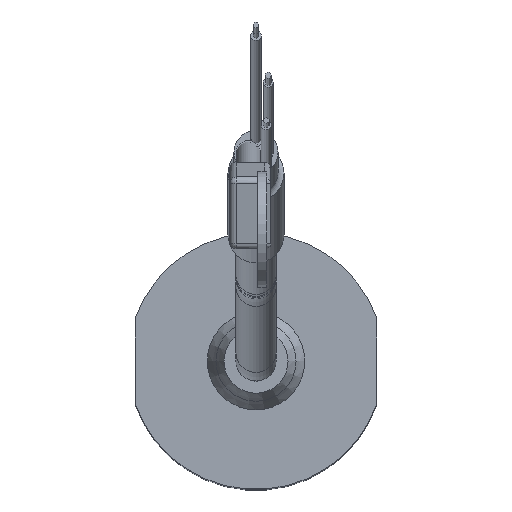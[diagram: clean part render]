
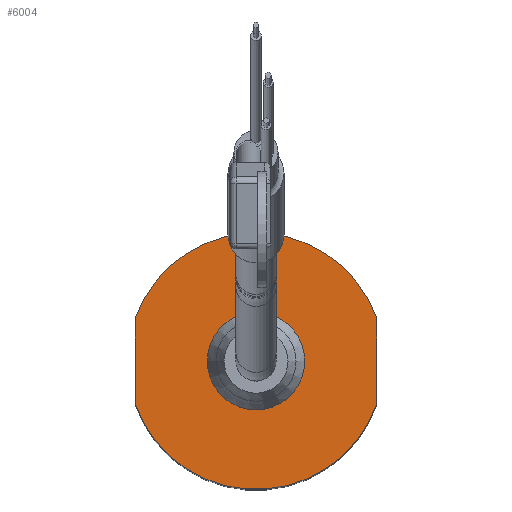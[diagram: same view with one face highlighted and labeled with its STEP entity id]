
A CAD part, top view. The second image highlights one B-rep face of the part: STEP entity #6004.
In plain terms, the highlighted planar face has unit normal (0, 0, 1).
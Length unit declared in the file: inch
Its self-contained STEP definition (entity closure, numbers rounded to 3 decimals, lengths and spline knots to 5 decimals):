
#341=FACE_BOUND('',#1038,.T.);
#438=PLANE('',#6739);
#670=FACE_OUTER_BOUND('',#1037,.T.);
#1037=EDGE_LOOP('',(#4391,#4392,#4393,#4394));
#1038=EDGE_LOOP('',(#4395,#4396));
#1410=LINE('',#9712,#1768);
#1413=LINE('',#9720,#1771);
#1768=VECTOR('',#7836,0.3937);
#1771=VECTOR('',#7845,0.3937);
#2137=CIRCLE('',#6727,0.09843);
#2138=CIRCLE('',#6728,0.09843);
#2142=CIRCLE('',#6735,0.31496);
#2143=CIRCLE('',#6738,0.31496);
#2546=VERTEX_POINT('',#9692);
#2547=VERTEX_POINT('',#9693);
#2553=VERTEX_POINT('',#9709);
#2554=VERTEX_POINT('',#9711);
#2555=VERTEX_POINT('',#9715);
#2556=VERTEX_POINT('',#9719);
#3218=EDGE_CURVE('',#2546,#2547,#2137,.T.);
#3219=EDGE_CURVE('',#2547,#2546,#2138,.T.);
#3227=EDGE_CURVE('',#2554,#2553,#1410,.T.);
#3229=EDGE_CURVE('',#2555,#2554,#2142,.T.);
#3231=EDGE_CURVE('',#2556,#2555,#1413,.T.);
#3233=EDGE_CURVE('',#2553,#2556,#2143,.T.);
#4391=ORIENTED_EDGE('',*,*,#3233,.T.);
#4392=ORIENTED_EDGE('',*,*,#3231,.T.);
#4393=ORIENTED_EDGE('',*,*,#3229,.T.);
#4394=ORIENTED_EDGE('',*,*,#3227,.T.);
#4395=ORIENTED_EDGE('',*,*,#3218,.T.);
#4396=ORIENTED_EDGE('',*,*,#3219,.T.);
#6004=ADVANCED_FACE('',(#670,#341),#438,.T.);
#6727=AXIS2_PLACEMENT_3D('',#9694,#7818,#7819);
#6728=AXIS2_PLACEMENT_3D('',#9695,#7820,#7821);
#6735=AXIS2_PLACEMENT_3D('',#9716,#7840,#7841);
#6738=AXIS2_PLACEMENT_3D('',#9723,#7849,#7850);
#6739=AXIS2_PLACEMENT_3D('',#9724,#7851,#7852);
#7818=DIRECTION('center_axis',(0.,0.,
-1.));
#7819=DIRECTION('ref_axis',(1.,0.,0.));
#7820=DIRECTION('center_axis',(0.,0.,
-1.));
#7821=DIRECTION('ref_axis',(1.,0.,0.));
#7836=DIRECTION('',(0.,-1.,0.));
#7840=DIRECTION('center_axis',(0.,0.,
1.));
#7841=DIRECTION('ref_axis',(0.944,0.331,0.));
#7845=DIRECTION('',(0.,1.,0.));
#7849=DIRECTION('center_axis',(0.,0.,
1.));
#7850=DIRECTION('ref_axis',(-0.944,-0.331,0.));
#7851=DIRECTION('center_axis',(0.,0.,
1.));
#7852=DIRECTION('ref_axis',(1.,0.,0.));
#9692=CARTESIAN_POINT('',(0.09843,0.,0.72835));
#9693=CARTESIAN_POINT('',(-0.09843,0.,0.72835));
#9694=CARTESIAN_POINT('Origin',(0.,0.,
0.72835));
#9695=CARTESIAN_POINT('Origin',(0.,0.,
0.72835));
#9709=CARTESIAN_POINT('',(-0.29724,-0.10414,0.72835));
#9711=CARTESIAN_POINT('',(-0.29724,0.10414,0.72835));
#9712=CARTESIAN_POINT('',(-0.29724,0.10414,0.72835));
#9715=CARTESIAN_POINT('',(0.29724,0.10414,0.72835));
#9716=CARTESIAN_POINT('Origin',(0.,0.,
0.72835));
#9719=CARTESIAN_POINT('',(0.29724,-0.10414,0.72835));
#9720=CARTESIAN_POINT('',(0.29724,-0.10414,0.72835));
#9723=CARTESIAN_POINT('Origin',(0.,0.,
0.72835));
#9724=CARTESIAN_POINT('Origin',(0.,0.,
0.72835));
